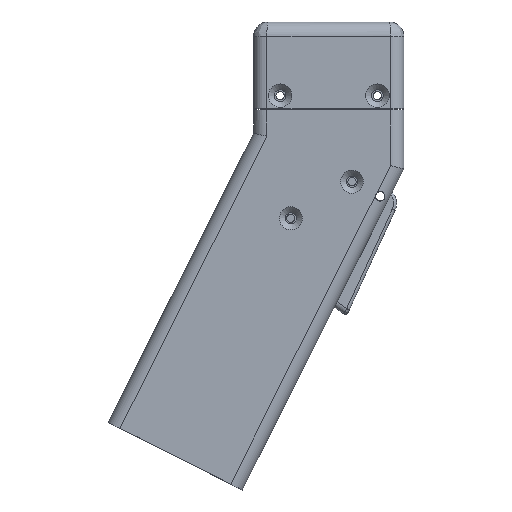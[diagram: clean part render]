
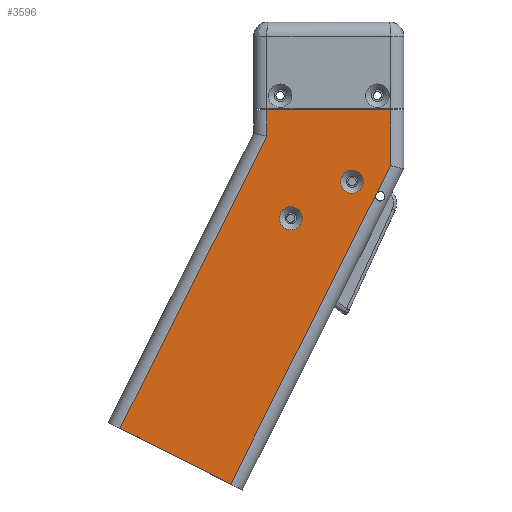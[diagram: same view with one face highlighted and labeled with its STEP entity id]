
A CAD part, left-side view. The second image highlights one B-rep face of the part: STEP entity #3596.
In plain terms, the highlighted planar face has unit normal (-1, 0, 0).
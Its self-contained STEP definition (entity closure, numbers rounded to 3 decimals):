
#130=FACE_BOUND('',#569,.T.);
#131=FACE_BOUND('',#570,.T.);
#193=PLANE('',#3924);
#348=FACE_OUTER_BOUND('',#568,.T.);
#568=EDGE_LOOP('',(#2858,#2859,#2860,#2861,#2862,#2863,#2864,#2865));
#569=EDGE_LOOP('',(#2866));
#570=EDGE_LOOP('',(#2867));
#831=LINE('',#6075,#1150);
#851=LINE('',#6145,#1170);
#852=LINE('',#6147,#1171);
#853=LINE('',#6149,#1172);
#854=LINE('',#6151,#1173);
#855=LINE('',#6152,#1174);
#856=LINE('',#6153,#1175);
#1150=VECTOR('',#4605,10.);
#1170=VECTOR('',#4669,10.);
#1171=VECTOR('',#4670,10.);
#1172=VECTOR('',#4671,10.);
#1173=VECTOR('',#4672,10.);
#1174=VECTOR('',#4673,10.);
#1175=VECTOR('',#4674,10.);
#1423=CIRCLE('',#3922,3.9);
#1425=CIRCLE('',#3925,1.6);
#1426=CIRCLE('',#3926,3.9);
#1640=VERTEX_POINT('',#6072);
#1641=VERTEX_POINT('',#6074);
#1665=VERTEX_POINT('',#6135);
#1667=VERTEX_POINT('',#6141);
#1668=VERTEX_POINT('',#6142);
#1669=VERTEX_POINT('',#6144);
#1670=VERTEX_POINT('',#6146);
#1671=VERTEX_POINT('',#6148);
#1672=VERTEX_POINT('',#6150);
#1673=VERTEX_POINT('',#6154);
#2063=EDGE_CURVE('',#1640,#1641,#831,.F.);
#2094=EDGE_CURVE('',#1665,#1665,#1423,.T.);
#2097=EDGE_CURVE('',#1667,#1668,#1425,.T.);
#2098=EDGE_CURVE('',#1669,#1668,#851,.T.);
#2099=EDGE_CURVE('',#1670,#1669,#852,.T.);
#2100=EDGE_CURVE('',#1670,#1671,#853,.F.);
#2101=EDGE_CURVE('',#1672,#1671,#854,.T.);
#2102=EDGE_CURVE('',#1672,#1641,#855,.T.);
#2103=EDGE_CURVE('',#1667,#1640,#856,.T.);
#2104=EDGE_CURVE('',#1673,#1673,#1426,.T.);
#2858=ORIENTED_EDGE('',*,*,#2097,.T.);
#2859=ORIENTED_EDGE('',*,*,#2098,.F.);
#2860=ORIENTED_EDGE('',*,*,#2099,.F.);
#2861=ORIENTED_EDGE('',*,*,#2100,.T.);
#2862=ORIENTED_EDGE('',*,*,#2101,.F.);
#2863=ORIENTED_EDGE('',*,*,#2102,.T.);
#2864=ORIENTED_EDGE('',*,*,#2063,.F.);
#2865=ORIENTED_EDGE('',*,*,#2103,.F.);
#2866=ORIENTED_EDGE('',*,*,#2104,.F.);
#2867=ORIENTED_EDGE('',*,*,#2094,.F.);
#3596=ADVANCED_FACE('',(#348,#130,#131),#193,.T.);
#3922=AXIS2_PLACEMENT_3D('',#6136,#4660,#4661);
#3924=AXIS2_PLACEMENT_3D('',#6140,#4665,#4666);
#3925=AXIS2_PLACEMENT_3D('',#6143,#4667,#4668);
#3926=AXIS2_PLACEMENT_3D('',#6155,#4675,#4676);
#4605=DIRECTION('',(0.,-0.893,-0.449));
#4660=DIRECTION('center_axis',(-1.,0.,0.));
#4661=DIRECTION('ref_axis',(0.,1.,0.));
#4665=DIRECTION('center_axis',(-1.,0.,0.));
#4666=DIRECTION('ref_axis',(0.,1.,0.));
#4667=DIRECTION('center_axis',(1.,0.,0.));
#4668=DIRECTION('ref_axis',(0.,1.,0.));
#4669=DIRECTION('',(0.,0.449,-0.893));
#4670=DIRECTION('',(0.,0.,-1.));
#4671=DIRECTION('',(0.,-1.,0.));
#4672=DIRECTION('',(0.,0.,1.));
#4673=DIRECTION('',(0.,0.449,-0.893));
#4674=DIRECTION('',(0.,0.449,-0.893));
#4675=DIRECTION('center_axis',(-1.,0.,0.));
#4676=DIRECTION('ref_axis',(0.,1.,0.));
#6072=CARTESIAN_POINT('',(-19.,36.807,-133.199));
#6074=CARTESIAN_POINT('',(-19.,74.327,-114.325));
#6075=CARTESIAN_POINT('',(-19.,50.45,-126.336));
#6135=CARTESIAN_POINT('',(-19.,12.465,-43.074));
#6136=CARTESIAN_POINT('Origin',(-19.,16.365,-43.074));
#6140=CARTESIAN_POINT('Origin',(-19.,-17.5,-4.));
#6141=CARTESIAN_POINT('',(-19.,-12.366,-35.445));
#6142=CARTESIAN_POINT('',(-19.,-12.866,-34.451));
#6143=CARTESIAN_POINT('Origin',(-19.,-13.956,-35.622));
#6144=CARTESIAN_POINT('',(-19.,-17.5,-25.238));
#6145=CARTESIAN_POINT('',(-19.,-15.595,-29.025));
#6146=CARTESIAN_POINT('',(-19.,-17.5,-6.25));
#6147=CARTESIAN_POINT('',(-19.,-17.5,-9.));
#6148=CARTESIAN_POINT('',(-19.,24.5,-6.25));
#6149=CARTESIAN_POINT('',(-19.,-8.75,-6.25));
#6150=CARTESIAN_POINT('',(-19.,24.5,-15.27));
#6151=CARTESIAN_POINT('',(-19.,24.5,-6.));
#6152=CARTESIAN_POINT('',(-19.,21.925,-10.151));
#6153=CARTESIAN_POINT('',(-19.,-15.595,-29.025));
#6154=CARTESIAN_POINT('',(-19.,-8.281,-30.681));
#6155=CARTESIAN_POINT('Origin',(-19.,-4.381,-30.681));
